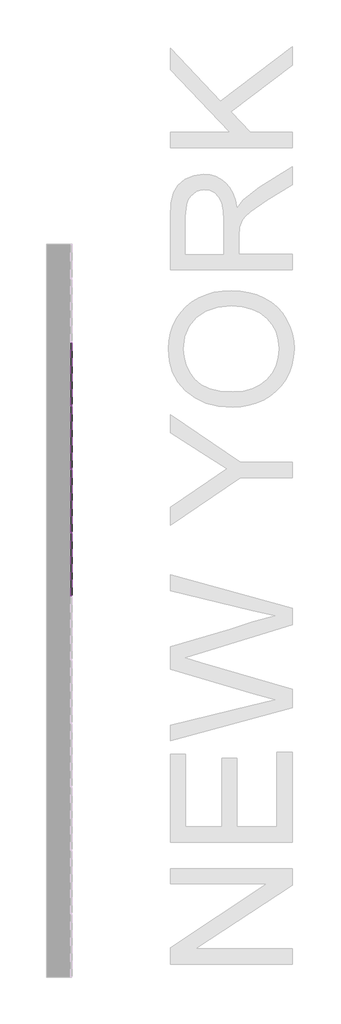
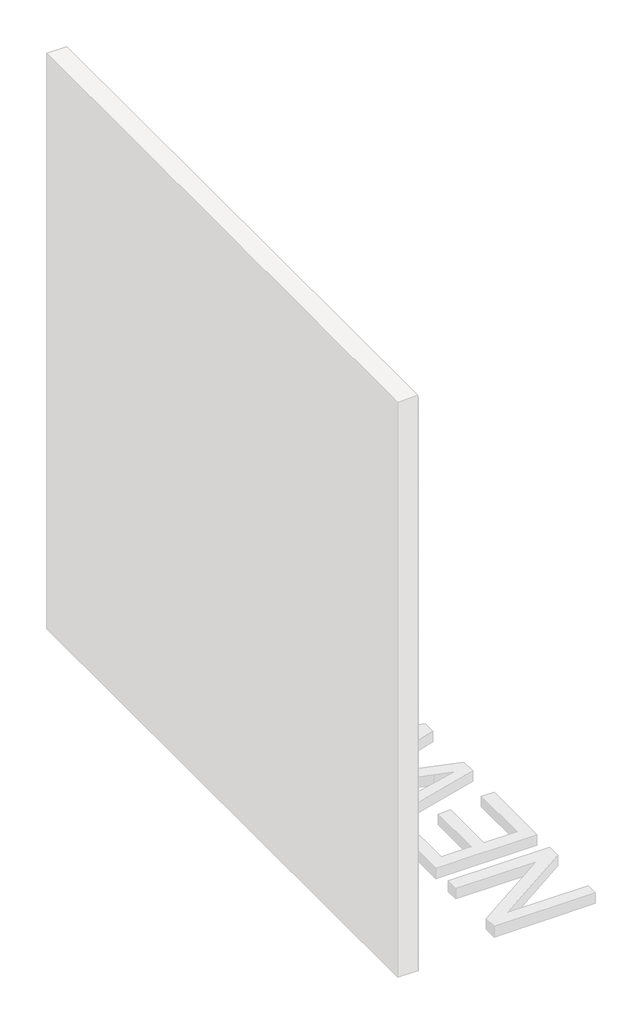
# One storey, part 23 of 45: 108 proxies.
"""IFC4 building model written with IfcOpenShell, lengths in millimetres."""

from ifc_helpers import new_model, si_unit, origin, place, context, project, spatial, transform, mapped, element, save
from components import generic_models_ab0f2c30

model = new_model("IFC4")

# Units and contexts
model_context = context("Model", 3, world=origin())
ifc_project = project(units=[si_unit("LENGTHUNIT", "METRE", prefix="MILLI")], contexts=[model_context])

# Site, building, storey
site = spatial("IfcSite", under=ifc_project)
building = spatial("IfcBuilding", under=site)
storey = spatial("IfcBuildingStorey", under=building, Name="PORTOBELLO - SHOWROOM", Elevation=0.0)

# Proxies
placement = place(None, origin())
generic_models_shape = generic_models_ab0f2c30(model_context)
element("IfcBuildingElementProxy", 1, Name="PBSHOP - HORIZONTES NEW YORK 6,5X23 : NEW YORK", ObjectType="PBSHOP - HORIZONTES NEW YORK 6,5X23 : NEW YORK", at=placement, inside=storey, context=model_context, shape_type="MappedRepresentation", body=[
    mapped(generic_models_shape, transform((69111.8826867, 7202.0036359, 862.5), x_axis=(0.0, 0.0, 1.0), y_axis=(0.0, -1.0, 0.0), z_axis=(1.0, 0.0, 0.0))),
])
element("IfcBuildingElementProxy", 2, Name="PBSHOP - HORIZONTES NEW YORK 6,5X23 : NEW YORK", ObjectType="PBSHOP - HORIZONTES NEW YORK 6,5X23 : NEW YORK", at=placement, inside=storey, context=model_context, shape_type="MappedRepresentation", body=[
    mapped(generic_models_shape, transform((69111.8826867, 7436.0036359, 862.5), x_axis=(0.0, 0.0, 1.0), y_axis=(0.0, -1.0, 0.0), z_axis=(1.0, 0.0, 0.0))),
])
element("IfcBuildingElementProxy", 3, Name="PBSHOP - HORIZONTES NEW YORK 6,5X23 : NEW YORK", ObjectType="PBSHOP - HORIZONTES NEW YORK 6,5X23 : NEW YORK", at=placement, inside=storey, context=model_context, shape_type="MappedRepresentation", body=[
    mapped(generic_models_shape, transform((69111.8826867, 7670.0036359, 862.5), x_axis=(0.0, 0.0, 1.0), y_axis=(0.0, -1.0, 0.0), z_axis=(1.0, 0.0, 0.0))),
])
element("IfcBuildingElementProxy", 4, Name="PBSHOP - HORIZONTES NEW YORK 6,5X23 : NEW YORK", ObjectType="PBSHOP - HORIZONTES NEW YORK 6,5X23 : NEW YORK", at=placement, inside=storey, context=model_context, shape_type="MappedRepresentation", body=[
    mapped(generic_models_shape, transform((69111.8826867, 7904.0036359, 862.5), x_axis=(0.0, 0.0, 1.0), y_axis=(0.0, -1.0, 0.0), z_axis=(1.0, 0.0, 0.0))),
])
element("IfcBuildingElementProxy", 5, Name="PBSHOP - HORIZONTES NEW YORK 6,5X23 : NEW YORK", ObjectType="PBSHOP - HORIZONTES NEW YORK 6,5X23 : NEW YORK", at=placement, inside=storey, context=model_context, shape_type="MappedRepresentation", body=[
    mapped(generic_models_shape, transform((69111.8826867, 7202.0036359, 931.5), x_axis=(0.0, 0.0, 1.0), y_axis=(0.0, -1.0, 0.0), z_axis=(1.0, 0.0, 0.0))),
])
element("IfcBuildingElementProxy", 6, Name="PBSHOP - HORIZONTES NEW YORK 6,5X23 : NEW YORK", ObjectType="PBSHOP - HORIZONTES NEW YORK 6,5X23 : NEW YORK", at=placement, inside=storey, context=model_context, shape_type="MappedRepresentation", body=[
    mapped(generic_models_shape, transform((69111.8826867, 7436.0036359, 931.5), x_axis=(0.0, 0.0, 1.0), y_axis=(0.0, -1.0, 0.0), z_axis=(1.0, 0.0, 0.0))),
])
element("IfcBuildingElementProxy", 7, Name="PBSHOP - HORIZONTES NEW YORK 6,5X23 : NEW YORK", ObjectType="PBSHOP - HORIZONTES NEW YORK 6,5X23 : NEW YORK", at=placement, inside=storey, context=model_context, shape_type="MappedRepresentation", body=[
    mapped(generic_models_shape, transform((69111.8826867, 7670.0036359, 931.5), x_axis=(0.0, 0.0, 1.0), y_axis=(0.0, -1.0, 0.0), z_axis=(1.0, 0.0, 0.0))),
])
element("IfcBuildingElementProxy", 8, Name="PBSHOP - HORIZONTES NEW YORK 6,5X23 : NEW YORK", ObjectType="PBSHOP - HORIZONTES NEW YORK 6,5X23 : NEW YORK", at=placement, inside=storey, context=model_context, shape_type="MappedRepresentation", body=[
    mapped(generic_models_shape, transform((69111.8826867, 7904.0036359, 931.5), x_axis=(0.0, 0.0, 1.0), y_axis=(0.0, -1.0, 0.0), z_axis=(1.0, 0.0, 0.0))),
])
element("IfcBuildingElementProxy", 9, Name="PBSHOP - HORIZONTES NEW YORK 6,5X23 : NEW YORK", ObjectType="PBSHOP - HORIZONTES NEW YORK 6,5X23 : NEW YORK", at=placement, inside=storey, context=model_context, shape_type="MappedRepresentation", body=[
    mapped(generic_models_shape, transform((69111.8826867, 7202.0036359, 1000.5), x_axis=(0.0, 0.0, 1.0), y_axis=(0.0, -1.0, 0.0), z_axis=(1.0, 0.0, 0.0))),
])
element("IfcBuildingElementProxy", 10, Name="PBSHOP - HORIZONTES NEW YORK 6,5X23 : NEW YORK", ObjectType="PBSHOP - HORIZONTES NEW YORK 6,5X23 : NEW YORK", at=placement, inside=storey, context=model_context, shape_type="MappedRepresentation", body=[
    mapped(generic_models_shape, transform((69111.8826867, 7436.0036359, 1000.5), x_axis=(0.0, 0.0, 1.0), y_axis=(0.0, -1.0, 0.0), z_axis=(1.0, 0.0, 0.0))),
])
element("IfcBuildingElementProxy", 11, Name="PBSHOP - HORIZONTES NEW YORK 6,5X23 : NEW YORK", ObjectType="PBSHOP - HORIZONTES NEW YORK 6,5X23 : NEW YORK", at=placement, inside=storey, context=model_context, shape_type="MappedRepresentation", body=[
    mapped(generic_models_shape, transform((69111.8826867, 7670.0036359, 1000.5), x_axis=(0.0, 0.0, 1.0), y_axis=(0.0, -1.0, 0.0), z_axis=(1.0, 0.0, 0.0))),
])
element("IfcBuildingElementProxy", 12, Name="PBSHOP - HORIZONTES NEW YORK 6,5X23 : NEW YORK", ObjectType="PBSHOP - HORIZONTES NEW YORK 6,5X23 : NEW YORK", at=placement, inside=storey, context=model_context, shape_type="MappedRepresentation", body=[
    mapped(generic_models_shape, transform((69111.8826867, 7904.0036359, 1000.5), x_axis=(0.0, 0.0, 1.0), y_axis=(0.0, -1.0, 0.0), z_axis=(1.0, 0.0, 0.0))),
])
element("IfcBuildingElementProxy", 13, Name="PBSHOP - HORIZONTES NEW YORK 6,5X23 : NEW YORK", ObjectType="PBSHOP - HORIZONTES NEW YORK 6,5X23 : NEW YORK", at=placement, inside=storey, context=model_context, shape_type="MappedRepresentation", body=[
    mapped(generic_models_shape, transform((69111.8826867, 7202.0036359, 1069.5), x_axis=(0.0, 0.0, 1.0), y_axis=(0.0, -1.0, 0.0), z_axis=(1.0, 0.0, 0.0))),
])
element("IfcBuildingElementProxy", 14, Name="PBSHOP - HORIZONTES NEW YORK 6,5X23 : NEW YORK", ObjectType="PBSHOP - HORIZONTES NEW YORK 6,5X23 : NEW YORK", at=placement, inside=storey, context=model_context, shape_type="MappedRepresentation", body=[
    mapped(generic_models_shape, transform((69111.8826867, 7436.0036359, 1069.5), x_axis=(0.0, 0.0, 1.0), y_axis=(0.0, -1.0, 0.0), z_axis=(1.0, 0.0, 0.0))),
])
element("IfcBuildingElementProxy", 15, Name="PBSHOP - HORIZONTES NEW YORK 6,5X23 : NEW YORK", ObjectType="PBSHOP - HORIZONTES NEW YORK 6,5X23 : NEW YORK", at=placement, inside=storey, context=model_context, shape_type="MappedRepresentation", body=[
    mapped(generic_models_shape, transform((69111.8826867, 7670.0036359, 1069.5), x_axis=(0.0, 0.0, 1.0), y_axis=(0.0, -1.0, 0.0), z_axis=(1.0, 0.0, 0.0))),
])
element("IfcBuildingElementProxy", 16, Name="PBSHOP - HORIZONTES NEW YORK 6,5X23 : NEW YORK", ObjectType="PBSHOP - HORIZONTES NEW YORK 6,5X23 : NEW YORK", at=placement, inside=storey, context=model_context, shape_type="MappedRepresentation", body=[
    mapped(generic_models_shape, transform((69111.8826867, 7904.0036359, 1069.5), x_axis=(0.0, 0.0, 1.0), y_axis=(0.0, -1.0, 0.0), z_axis=(1.0, 0.0, 0.0))),
])
element("IfcBuildingElementProxy", 17, Name="PBSHOP - HORIZONTES NEW YORK 6,5X23 : NEW YORK", ObjectType="PBSHOP - HORIZONTES NEW YORK 6,5X23 : NEW YORK", at=placement, inside=storey, context=model_context, shape_type="MappedRepresentation", body=[
    mapped(generic_models_shape, transform((69111.8826867, 7202.0036359, 1138.5), x_axis=(0.0, 0.0, 1.0), y_axis=(0.0, -1.0, 0.0), z_axis=(1.0, 0.0, 0.0))),
])
element("IfcBuildingElementProxy", 18, Name="PBSHOP - HORIZONTES NEW YORK 6,5X23 : NEW YORK", ObjectType="PBSHOP - HORIZONTES NEW YORK 6,5X23 : NEW YORK", at=placement, inside=storey, context=model_context, shape_type="MappedRepresentation", body=[
    mapped(generic_models_shape, transform((69111.8826867, 7436.0036359, 1138.5), x_axis=(0.0, 0.0, 1.0), y_axis=(0.0, -1.0, 0.0), z_axis=(1.0, 0.0, 0.0))),
])
element("IfcBuildingElementProxy", 19, Name="PBSHOP - HORIZONTES NEW YORK 6,5X23 : NEW YORK", ObjectType="PBSHOP - HORIZONTES NEW YORK 6,5X23 : NEW YORK", at=placement, inside=storey, context=model_context, shape_type="MappedRepresentation", body=[
    mapped(generic_models_shape, transform((69111.8826867, 7670.0036359, 1138.5), x_axis=(0.0, 0.0, 1.0), y_axis=(0.0, -1.0, 0.0), z_axis=(1.0, 0.0, 0.0))),
])
element("IfcBuildingElementProxy", 20, Name="PBSHOP - HORIZONTES NEW YORK 6,5X23 : NEW YORK", ObjectType="PBSHOP - HORIZONTES NEW YORK 6,5X23 : NEW YORK", at=placement, inside=storey, context=model_context, shape_type="MappedRepresentation", body=[
    mapped(generic_models_shape, transform((69111.8826867, 7904.0036359, 1138.5), x_axis=(0.0, 0.0, 1.0), y_axis=(0.0, -1.0, 0.0), z_axis=(1.0, 0.0, 0.0))),
])
element("IfcBuildingElementProxy", 21, Name="PBSHOP - HORIZONTES NEW YORK 6,5X23 : NEW YORK", ObjectType="PBSHOP - HORIZONTES NEW YORK 6,5X23 : NEW YORK", at=placement, inside=storey, context=model_context, shape_type="MappedRepresentation", body=[
    mapped(generic_models_shape, transform((69111.8826867, 7202.0036359, 1207.5), x_axis=(0.0, 0.0, 1.0), y_axis=(0.0, -1.0, 0.0), z_axis=(1.0, 0.0, 0.0))),
])
element("IfcBuildingElementProxy", 22, Name="PBSHOP - HORIZONTES NEW YORK 6,5X23 : NEW YORK", ObjectType="PBSHOP - HORIZONTES NEW YORK 6,5X23 : NEW YORK", at=placement, inside=storey, context=model_context, shape_type="MappedRepresentation", body=[
    mapped(generic_models_shape, transform((69111.8826867, 7436.0036359, 1207.5), x_axis=(0.0, 0.0, 1.0), y_axis=(0.0, -1.0, 0.0), z_axis=(1.0, 0.0, 0.0))),
])
element("IfcBuildingElementProxy", 23, Name="PBSHOP - HORIZONTES NEW YORK 6,5X23 : NEW YORK", ObjectType="PBSHOP - HORIZONTES NEW YORK 6,5X23 : NEW YORK", at=placement, inside=storey, context=model_context, shape_type="MappedRepresentation", body=[
    mapped(generic_models_shape, transform((69111.8826867, 7670.0036359, 1207.5), x_axis=(0.0, 0.0, 1.0), y_axis=(0.0, -1.0, 0.0), z_axis=(1.0, 0.0, 0.0))),
])
element("IfcBuildingElementProxy", 24, Name="PBSHOP - HORIZONTES NEW YORK 6,5X23 : NEW YORK", ObjectType="PBSHOP - HORIZONTES NEW YORK 6,5X23 : NEW YORK", at=placement, inside=storey, context=model_context, shape_type="MappedRepresentation", body=[
    mapped(generic_models_shape, transform((69111.8826867, 7904.0036359, 1207.5), x_axis=(0.0, 0.0, 1.0), y_axis=(0.0, -1.0, 0.0), z_axis=(1.0, 0.0, 0.0))),
])
element("IfcBuildingElementProxy", 25, Name="PBSHOP - HORIZONTES NEW YORK 6,5X23 : NEW YORK", ObjectType="PBSHOP - HORIZONTES NEW YORK 6,5X23 : NEW YORK", at=placement, inside=storey, context=model_context, shape_type="MappedRepresentation", body=[
    mapped(generic_models_shape, transform((69111.8826867, 7202.0036359, 1276.5), x_axis=(0.0, 0.0, 1.0), y_axis=(0.0, -1.0, 0.0), z_axis=(1.0, 0.0, 0.0))),
])
element("IfcBuildingElementProxy", 26, Name="PBSHOP - HORIZONTES NEW YORK 6,5X23 : NEW YORK", ObjectType="PBSHOP - HORIZONTES NEW YORK 6,5X23 : NEW YORK", at=placement, inside=storey, context=model_context, shape_type="MappedRepresentation", body=[
    mapped(generic_models_shape, transform((69111.8826867, 7436.0036359, 1276.5), x_axis=(0.0, 0.0, 1.0), y_axis=(0.0, -1.0, 0.0), z_axis=(1.0, 0.0, 0.0))),
])
element("IfcBuildingElementProxy", 27, Name="PBSHOP - HORIZONTES NEW YORK 6,5X23 : NEW YORK", ObjectType="PBSHOP - HORIZONTES NEW YORK 6,5X23 : NEW YORK", at=placement, inside=storey, context=model_context, shape_type="MappedRepresentation", body=[
    mapped(generic_models_shape, transform((69111.8826867, 7670.0036359, 1276.5), x_axis=(0.0, 0.0, 1.0), y_axis=(0.0, -1.0, 0.0), z_axis=(1.0, 0.0, 0.0))),
])
element("IfcBuildingElementProxy", 28, Name="PBSHOP - HORIZONTES NEW YORK 6,5X23 : NEW YORK", ObjectType="PBSHOP - HORIZONTES NEW YORK 6,5X23 : NEW YORK", at=placement, inside=storey, context=model_context, shape_type="MappedRepresentation", body=[
    mapped(generic_models_shape, transform((69111.8826867, 7904.0036359, 1276.5), x_axis=(0.0, 0.0, 1.0), y_axis=(0.0, -1.0, 0.0), z_axis=(1.0, 0.0, 0.0))),
])
element("IfcBuildingElementProxy", 29, Name="PBSHOP - HORIZONTES NEW YORK 6,5X23 : NEW YORK", ObjectType="PBSHOP - HORIZONTES NEW YORK 6,5X23 : NEW YORK", at=placement, inside=storey, context=model_context, shape_type="MappedRepresentation", body=[
    mapped(generic_models_shape, transform((69111.8826867, 7202.0036359, 1345.5), x_axis=(0.0, 0.0, 1.0), y_axis=(0.0, -1.0, 0.0), z_axis=(1.0, 0.0, 0.0))),
])
element("IfcBuildingElementProxy", 30, Name="PBSHOP - HORIZONTES NEW YORK 6,5X23 : NEW YORK", ObjectType="PBSHOP - HORIZONTES NEW YORK 6,5X23 : NEW YORK", at=placement, inside=storey, context=model_context, shape_type="MappedRepresentation", body=[
    mapped(generic_models_shape, transform((69111.8826867, 7436.0036359, 1345.5), x_axis=(0.0, 0.0, 1.0), y_axis=(0.0, -1.0, 0.0), z_axis=(1.0, 0.0, 0.0))),
])
element("IfcBuildingElementProxy", 31, Name="PBSHOP - HORIZONTES NEW YORK 6,5X23 : NEW YORK", ObjectType="PBSHOP - HORIZONTES NEW YORK 6,5X23 : NEW YORK", at=placement, inside=storey, context=model_context, shape_type="MappedRepresentation", body=[
    mapped(generic_models_shape, transform((69111.8826867, 7670.0036359, 1345.5), x_axis=(0.0, 0.0, 1.0), y_axis=(0.0, -1.0, 0.0), z_axis=(1.0, 0.0, 0.0))),
])
element("IfcBuildingElementProxy", 32, Name="PBSHOP - HORIZONTES NEW YORK 6,5X23 : NEW YORK", ObjectType="PBSHOP - HORIZONTES NEW YORK 6,5X23 : NEW YORK", at=placement, inside=storey, context=model_context, shape_type="MappedRepresentation", body=[
    mapped(generic_models_shape, transform((69111.8826867, 7904.0036359, 1345.5), x_axis=(0.0, 0.0, 1.0), y_axis=(0.0, -1.0, 0.0), z_axis=(1.0, 0.0, 0.0))),
])
element("IfcBuildingElementProxy", 33, Name="PBSHOP - HORIZONTES NEW YORK 6,5X23 : NEW YORK", ObjectType="PBSHOP - HORIZONTES NEW YORK 6,5X23 : NEW YORK", at=placement, inside=storey, context=model_context, shape_type="MappedRepresentation", body=[
    mapped(generic_models_shape, transform((69111.8826867, 7202.0036359, 1414.5), x_axis=(0.0, 0.0, 1.0), y_axis=(0.0, -1.0, 0.0), z_axis=(1.0, 0.0, 0.0))),
])
element("IfcBuildingElementProxy", 34, Name="PBSHOP - HORIZONTES NEW YORK 6,5X23 : NEW YORK", ObjectType="PBSHOP - HORIZONTES NEW YORK 6,5X23 : NEW YORK", at=placement, inside=storey, context=model_context, shape_type="MappedRepresentation", body=[
    mapped(generic_models_shape, transform((69111.8826867, 7436.0036359, 1414.5), x_axis=(0.0, 0.0, 1.0), y_axis=(0.0, -1.0, 0.0), z_axis=(1.0, 0.0, 0.0))),
])
element("IfcBuildingElementProxy", 35, Name="PBSHOP - HORIZONTES NEW YORK 6,5X23 : NEW YORK", ObjectType="PBSHOP - HORIZONTES NEW YORK 6,5X23 : NEW YORK", at=placement, inside=storey, context=model_context, shape_type="MappedRepresentation", body=[
    mapped(generic_models_shape, transform((69111.8826867, 7670.0036359, 1414.5), x_axis=(0.0, 0.0, 1.0), y_axis=(0.0, -1.0, 0.0), z_axis=(1.0, 0.0, 0.0))),
])
element("IfcBuildingElementProxy", 36, Name="PBSHOP - HORIZONTES NEW YORK 6,5X23 : NEW YORK", ObjectType="PBSHOP - HORIZONTES NEW YORK 6,5X23 : NEW YORK", at=placement, inside=storey, context=model_context, shape_type="MappedRepresentation", body=[
    mapped(generic_models_shape, transform((69111.8826867, 7904.0036359, 1414.5), x_axis=(0.0, 0.0, 1.0), y_axis=(0.0, -1.0, 0.0), z_axis=(1.0, 0.0, 0.0))),
])
element("IfcBuildingElementProxy", 37, Name="PBSHOP - HORIZONTES NEW YORK 6,5X23 : NEW YORK", ObjectType="PBSHOP - HORIZONTES NEW YORK 6,5X23 : NEW YORK", at=placement, inside=storey, context=model_context, shape_type="MappedRepresentation", body=[
    mapped(generic_models_shape, transform((69111.8826867, 7202.0036359, 1483.5), x_axis=(0.0, 0.0, 1.0), y_axis=(0.0, -1.0, 0.0), z_axis=(1.0, 0.0, 0.0))),
])
element("IfcBuildingElementProxy", 38, Name="PBSHOP - HORIZONTES NEW YORK 6,5X23 : NEW YORK", ObjectType="PBSHOP - HORIZONTES NEW YORK 6,5X23 : NEW YORK", at=placement, inside=storey, context=model_context, shape_type="MappedRepresentation", body=[
    mapped(generic_models_shape, transform((69111.8826867, 7436.0036359, 1483.5), x_axis=(0.0, 0.0, 1.0), y_axis=(0.0, -1.0, 0.0), z_axis=(1.0, 0.0, 0.0))),
])
element("IfcBuildingElementProxy", 39, Name="PBSHOP - HORIZONTES NEW YORK 6,5X23 : NEW YORK", ObjectType="PBSHOP - HORIZONTES NEW YORK 6,5X23 : NEW YORK", at=placement, inside=storey, context=model_context, shape_type="MappedRepresentation", body=[
    mapped(generic_models_shape, transform((69111.8826867, 7670.0036359, 1483.5), x_axis=(0.0, 0.0, 1.0), y_axis=(0.0, -1.0, 0.0), z_axis=(1.0, 0.0, 0.0))),
])
element("IfcBuildingElementProxy", 40, Name="PBSHOP - HORIZONTES NEW YORK 6,5X23 : NEW YORK", ObjectType="PBSHOP - HORIZONTES NEW YORK 6,5X23 : NEW YORK", at=placement, inside=storey, context=model_context, shape_type="MappedRepresentation", body=[
    mapped(generic_models_shape, transform((69111.8826867, 7904.0036359, 1483.5), x_axis=(0.0, 0.0, 1.0), y_axis=(0.0, -1.0, 0.0), z_axis=(1.0, 0.0, 0.0))),
])
element("IfcBuildingElementProxy", 41, Name="PBSHOP - HORIZONTES NEW YORK 6,5X23 : NEW YORK", ObjectType="PBSHOP - HORIZONTES NEW YORK 6,5X23 : NEW YORK", at=placement, inside=storey, context=model_context, shape_type="MappedRepresentation", body=[
    mapped(generic_models_shape, transform((69111.8826867, 7202.0036359, 1552.5), x_axis=(0.0, 0.0, 1.0), y_axis=(0.0, -1.0, 0.0), z_axis=(1.0, 0.0, 0.0))),
])
element("IfcBuildingElementProxy", 42, Name="PBSHOP - HORIZONTES NEW YORK 6,5X23 : NEW YORK", ObjectType="PBSHOP - HORIZONTES NEW YORK 6,5X23 : NEW YORK", at=placement, inside=storey, context=model_context, shape_type="MappedRepresentation", body=[
    mapped(generic_models_shape, transform((69111.8826867, 7436.0036359, 1552.5), x_axis=(0.0, 0.0, 1.0), y_axis=(0.0, -1.0, 0.0), z_axis=(1.0, 0.0, 0.0))),
])
element("IfcBuildingElementProxy", 43, Name="PBSHOP - HORIZONTES NEW YORK 6,5X23 : NEW YORK", ObjectType="PBSHOP - HORIZONTES NEW YORK 6,5X23 : NEW YORK", at=placement, inside=storey, context=model_context, shape_type="MappedRepresentation", body=[
    mapped(generic_models_shape, transform((69111.8826867, 7670.0036359, 1552.5), x_axis=(0.0, 0.0, 1.0), y_axis=(0.0, -1.0, 0.0), z_axis=(1.0, 0.0, 0.0))),
])
element("IfcBuildingElementProxy", 44, Name="PBSHOP - HORIZONTES NEW YORK 6,5X23 : NEW YORK", ObjectType="PBSHOP - HORIZONTES NEW YORK 6,5X23 : NEW YORK", at=placement, inside=storey, context=model_context, shape_type="MappedRepresentation", body=[
    mapped(generic_models_shape, transform((69111.8826867, 7904.0036359, 1552.5), x_axis=(0.0, 0.0, 1.0), y_axis=(0.0, -1.0, 0.0), z_axis=(1.0, 0.0, 0.0))),
])
element("IfcBuildingElementProxy", 45, Name="PBSHOP - HORIZONTES NEW YORK 6,5X23 : NEW YORK", ObjectType="PBSHOP - HORIZONTES NEW YORK 6,5X23 : NEW YORK", at=placement, inside=storey, context=model_context, shape_type="MappedRepresentation", body=[
    mapped(generic_models_shape, transform((69111.8826867, 7202.0036359, 1621.5), x_axis=(0.0, 0.0, 1.0), y_axis=(0.0, -1.0, 0.0), z_axis=(1.0, 0.0, 0.0))),
])
element("IfcBuildingElementProxy", 46, Name="PBSHOP - HORIZONTES NEW YORK 6,5X23 : NEW YORK", ObjectType="PBSHOP - HORIZONTES NEW YORK 6,5X23 : NEW YORK", at=placement, inside=storey, context=model_context, shape_type="MappedRepresentation", body=[
    mapped(generic_models_shape, transform((69111.8826867, 7436.0036359, 1621.5), x_axis=(0.0, 0.0, 1.0), y_axis=(0.0, -1.0, 0.0), z_axis=(1.0, 0.0, 0.0))),
])
element("IfcBuildingElementProxy", 47, Name="PBSHOP - HORIZONTES NEW YORK 6,5X23 : NEW YORK", ObjectType="PBSHOP - HORIZONTES NEW YORK 6,5X23 : NEW YORK", at=placement, inside=storey, context=model_context, shape_type="MappedRepresentation", body=[
    mapped(generic_models_shape, transform((69111.8826867, 7670.0036359, 1621.5), x_axis=(0.0, 0.0, 1.0), y_axis=(0.0, -1.0, 0.0), z_axis=(1.0, 0.0, 0.0))),
])
element("IfcBuildingElementProxy", 48, Name="PBSHOP - HORIZONTES NEW YORK 6,5X23 : NEW YORK", ObjectType="PBSHOP - HORIZONTES NEW YORK 6,5X23 : NEW YORK", at=placement, inside=storey, context=model_context, shape_type="MappedRepresentation", body=[
    mapped(generic_models_shape, transform((69111.8826867, 7904.0036359, 1621.5), x_axis=(0.0, 0.0, 1.0), y_axis=(0.0, -1.0, 0.0), z_axis=(1.0, 0.0, 0.0))),
])
element("IfcBuildingElementProxy", 49, Name="PBSHOP - HORIZONTES NEW YORK 6,5X23 : NEW YORK", ObjectType="PBSHOP - HORIZONTES NEW YORK 6,5X23 : NEW YORK", at=placement, inside=storey, context=model_context, shape_type="MappedRepresentation", body=[
    mapped(generic_models_shape, transform((69111.8826867, 7202.0036359, 1690.5), x_axis=(0.0, 0.0, 1.0), y_axis=(0.0, -1.0, 0.0), z_axis=(1.0, 0.0, 0.0))),
])
element("IfcBuildingElementProxy", 50, Name="PBSHOP - HORIZONTES NEW YORK 6,5X23 : NEW YORK", ObjectType="PBSHOP - HORIZONTES NEW YORK 6,5X23 : NEW YORK", at=placement, inside=storey, context=model_context, shape_type="MappedRepresentation", body=[
    mapped(generic_models_shape, transform((69111.8826867, 7436.0036359, 1690.5), x_axis=(0.0, 0.0, 1.0), y_axis=(0.0, -1.0, 0.0), z_axis=(1.0, 0.0, 0.0))),
])
element("IfcBuildingElementProxy", 51, Name="PBSHOP - HORIZONTES NEW YORK 6,5X23 : NEW YORK", ObjectType="PBSHOP - HORIZONTES NEW YORK 6,5X23 : NEW YORK", at=placement, inside=storey, context=model_context, shape_type="MappedRepresentation", body=[
    mapped(generic_models_shape, transform((69111.8826867, 7670.0036359, 1690.5), x_axis=(0.0, 0.0, 1.0), y_axis=(0.0, -1.0, 0.0), z_axis=(1.0, 0.0, 0.0))),
])
element("IfcBuildingElementProxy", 52, Name="PBSHOP - HORIZONTES NEW YORK 6,5X23 : NEW YORK", ObjectType="PBSHOP - HORIZONTES NEW YORK 6,5X23 : NEW YORK", at=placement, inside=storey, context=model_context, shape_type="MappedRepresentation", body=[
    mapped(generic_models_shape, transform((69111.8826867, 7904.0036359, 1690.5), x_axis=(0.0, 0.0, 1.0), y_axis=(0.0, -1.0, 0.0), z_axis=(1.0, 0.0, 0.0))),
])
element("IfcBuildingElementProxy", 53, Name="PBSHOP - HORIZONTES NEW YORK 6,5X23 : NEW YORK", ObjectType="PBSHOP - HORIZONTES NEW YORK 6,5X23 : NEW YORK", at=placement, inside=storey, context=model_context, shape_type="MappedRepresentation", body=[
    mapped(generic_models_shape, transform((69111.8826867, 7202.0036359, 1759.5), x_axis=(0.0, 0.0, 1.0), y_axis=(0.0, -1.0, 0.0), z_axis=(1.0, 0.0, 0.0))),
])
element("IfcBuildingElementProxy", 54, Name="PBSHOP - HORIZONTES NEW YORK 6,5X23 : NEW YORK", ObjectType="PBSHOP - HORIZONTES NEW YORK 6,5X23 : NEW YORK", at=placement, inside=storey, context=model_context, shape_type="MappedRepresentation", body=[
    mapped(generic_models_shape, transform((69111.8826867, 7436.0036359, 1759.5), x_axis=(0.0, 0.0, 1.0), y_axis=(0.0, -1.0, 0.0), z_axis=(1.0, 0.0, 0.0))),
])
element("IfcBuildingElementProxy", 55, Name="PBSHOP - HORIZONTES NEW YORK 6,5X23 : NEW YORK", ObjectType="PBSHOP - HORIZONTES NEW YORK 6,5X23 : NEW YORK", at=placement, inside=storey, context=model_context, shape_type="MappedRepresentation", body=[
    mapped(generic_models_shape, transform((69111.8826867, 7670.0036359, 1759.5), x_axis=(0.0, 0.0, 1.0), y_axis=(0.0, -1.0, 0.0), z_axis=(1.0, 0.0, 0.0))),
])
element("IfcBuildingElementProxy", 56, Name="PBSHOP - HORIZONTES NEW YORK 6,5X23 : NEW YORK", ObjectType="PBSHOP - HORIZONTES NEW YORK 6,5X23 : NEW YORK", at=placement, inside=storey, context=model_context, shape_type="MappedRepresentation", body=[
    mapped(generic_models_shape, transform((69111.8826867, 7904.0036359, 1759.5), x_axis=(0.0, 0.0, 1.0), y_axis=(0.0, -1.0, 0.0), z_axis=(1.0, 0.0, 0.0))),
])
element("IfcBuildingElementProxy", 57, Name="PBSHOP - HORIZONTES NEW YORK 6,5X23 : NEW YORK", ObjectType="PBSHOP - HORIZONTES NEW YORK 6,5X23 : NEW YORK", at=placement, inside=storey, context=model_context, shape_type="MappedRepresentation", body=[
    mapped(generic_models_shape, transform((69111.8826867, 7202.0036359, 1828.5), x_axis=(0.0, 0.0, 1.0), y_axis=(0.0, -1.0, 0.0), z_axis=(1.0, 0.0, 0.0))),
])
element("IfcBuildingElementProxy", 58, Name="PBSHOP - HORIZONTES NEW YORK 6,5X23 : NEW YORK", ObjectType="PBSHOP - HORIZONTES NEW YORK 6,5X23 : NEW YORK", at=placement, inside=storey, context=model_context, shape_type="MappedRepresentation", body=[
    mapped(generic_models_shape, transform((69111.8826867, 7436.0036359, 1828.5), x_axis=(0.0, 0.0, 1.0), y_axis=(0.0, -1.0, 0.0), z_axis=(1.0, 0.0, 0.0))),
])
element("IfcBuildingElementProxy", 59, Name="PBSHOP - HORIZONTES NEW YORK 6,5X23 : NEW YORK", ObjectType="PBSHOP - HORIZONTES NEW YORK 6,5X23 : NEW YORK", at=placement, inside=storey, context=model_context, shape_type="MappedRepresentation", body=[
    mapped(generic_models_shape, transform((69111.8826867, 7670.0036359, 1828.5), x_axis=(0.0, 0.0, 1.0), y_axis=(0.0, -1.0, 0.0), z_axis=(1.0, 0.0, 0.0))),
])
element("IfcBuildingElementProxy", 60, Name="PBSHOP - HORIZONTES NEW YORK 6,5X23 : NEW YORK", ObjectType="PBSHOP - HORIZONTES NEW YORK 6,5X23 : NEW YORK", at=placement, inside=storey, context=model_context, shape_type="MappedRepresentation", body=[
    mapped(generic_models_shape, transform((69111.8826867, 7904.0036359, 1828.5), x_axis=(0.0, 0.0, 1.0), y_axis=(0.0, -1.0, 0.0), z_axis=(1.0, 0.0, 0.0))),
])
element("IfcBuildingElementProxy", 61, Name="PBSHOP - HORIZONTES NEW YORK 6,5X23 : NEW YORK", ObjectType="PBSHOP - HORIZONTES NEW YORK 6,5X23 : NEW YORK", at=placement, inside=storey, context=model_context, shape_type="MappedRepresentation", body=[
    mapped(generic_models_shape, transform((69111.8826867, 7202.0036359, 1897.5), x_axis=(0.0, 0.0, 1.0), y_axis=(0.0, -1.0, 0.0), z_axis=(1.0, 0.0, 0.0))),
])
element("IfcBuildingElementProxy", 62, Name="PBSHOP - HORIZONTES NEW YORK 6,5X23 : NEW YORK", ObjectType="PBSHOP - HORIZONTES NEW YORK 6,5X23 : NEW YORK", at=placement, inside=storey, context=model_context, shape_type="MappedRepresentation", body=[
    mapped(generic_models_shape, transform((69111.8826867, 7436.0036359, 1897.5), x_axis=(0.0, 0.0, 1.0), y_axis=(0.0, -1.0, 0.0), z_axis=(1.0, 0.0, 0.0))),
])
element("IfcBuildingElementProxy", 63, Name="PBSHOP - HORIZONTES NEW YORK 6,5X23 : NEW YORK", ObjectType="PBSHOP - HORIZONTES NEW YORK 6,5X23 : NEW YORK", at=placement, inside=storey, context=model_context, shape_type="MappedRepresentation", body=[
    mapped(generic_models_shape, transform((69111.8826867, 7670.0036359, 1897.5), x_axis=(0.0, 0.0, 1.0), y_axis=(0.0, -1.0, 0.0), z_axis=(1.0, 0.0, 0.0))),
])
element("IfcBuildingElementProxy", 64, Name="PBSHOP - HORIZONTES NEW YORK 6,5X23 : NEW YORK", ObjectType="PBSHOP - HORIZONTES NEW YORK 6,5X23 : NEW YORK", at=placement, inside=storey, context=model_context, shape_type="MappedRepresentation", body=[
    mapped(generic_models_shape, transform((69111.8826867, 7904.0036359, 1897.5), x_axis=(0.0, 0.0, 1.0), y_axis=(0.0, -1.0, 0.0), z_axis=(1.0, 0.0, 0.0))),
])
element("IfcBuildingElementProxy", 65, Name="PBSHOP - HORIZONTES NEW YORK 6,5X23 : NEW YORK", ObjectType="PBSHOP - HORIZONTES NEW YORK 6,5X23 : NEW YORK", at=placement, inside=storey, context=model_context, shape_type="MappedRepresentation", body=[
    mapped(generic_models_shape, transform((69111.8826867, 7202.0036359, 1966.5), x_axis=(0.0, 0.0, 1.0), y_axis=(0.0, -1.0, 0.0), z_axis=(1.0, 0.0, 0.0))),
])
element("IfcBuildingElementProxy", 66, Name="PBSHOP - HORIZONTES NEW YORK 6,5X23 : NEW YORK", ObjectType="PBSHOP - HORIZONTES NEW YORK 6,5X23 : NEW YORK", at=placement, inside=storey, context=model_context, shape_type="MappedRepresentation", body=[
    mapped(generic_models_shape, transform((69111.8826867, 7436.0036359, 1966.5), x_axis=(0.0, 0.0, 1.0), y_axis=(0.0, -1.0, 0.0), z_axis=(1.0, 0.0, 0.0))),
])
element("IfcBuildingElementProxy", 67, Name="PBSHOP - HORIZONTES NEW YORK 6,5X23 : NEW YORK", ObjectType="PBSHOP - HORIZONTES NEW YORK 6,5X23 : NEW YORK", at=placement, inside=storey, context=model_context, shape_type="MappedRepresentation", body=[
    mapped(generic_models_shape, transform((69111.8826867, 7670.0036359, 1966.5), x_axis=(0.0, 0.0, 1.0), y_axis=(0.0, -1.0, 0.0), z_axis=(1.0, 0.0, 0.0))),
])
element("IfcBuildingElementProxy", 68, Name="PBSHOP - HORIZONTES NEW YORK 6,5X23 : NEW YORK", ObjectType="PBSHOP - HORIZONTES NEW YORK 6,5X23 : NEW YORK", at=placement, inside=storey, context=model_context, shape_type="MappedRepresentation", body=[
    mapped(generic_models_shape, transform((69111.8826867, 7904.0036359, 1966.5), x_axis=(0.0, 0.0, 1.0), y_axis=(0.0, -1.0, 0.0), z_axis=(1.0, 0.0, 0.0))),
])
element("IfcBuildingElementProxy", 69, Name="PBSHOP - HORIZONTES NEW YORK 6,5X23 : NEW YORK", ObjectType="PBSHOP - HORIZONTES NEW YORK 6,5X23 : NEW YORK", at=placement, inside=storey, context=model_context, shape_type="MappedRepresentation", body=[
    mapped(generic_models_shape, transform((69111.8826867, 7202.0036359, 2035.5), x_axis=(0.0, 0.0, 1.0), y_axis=(0.0, -1.0, 0.0), z_axis=(1.0, 0.0, 0.0))),
])
element("IfcBuildingElementProxy", 70, Name="PBSHOP - HORIZONTES NEW YORK 6,5X23 : NEW YORK", ObjectType="PBSHOP - HORIZONTES NEW YORK 6,5X23 : NEW YORK", at=placement, inside=storey, context=model_context, shape_type="MappedRepresentation", body=[
    mapped(generic_models_shape, transform((69111.8826867, 7436.0036359, 2035.5), x_axis=(0.0, 0.0, 1.0), y_axis=(0.0, -1.0, 0.0), z_axis=(1.0, 0.0, 0.0))),
])
element("IfcBuildingElementProxy", 71, Name="PBSHOP - HORIZONTES NEW YORK 6,5X23 : NEW YORK", ObjectType="PBSHOP - HORIZONTES NEW YORK 6,5X23 : NEW YORK", at=placement, inside=storey, context=model_context, shape_type="MappedRepresentation", body=[
    mapped(generic_models_shape, transform((69111.8826867, 7670.0036359, 2035.5), x_axis=(0.0, 0.0, 1.0), y_axis=(0.0, -1.0, 0.0), z_axis=(1.0, 0.0, 0.0))),
])
element("IfcBuildingElementProxy", 72, Name="PBSHOP - HORIZONTES NEW YORK 6,5X23 : NEW YORK", ObjectType="PBSHOP - HORIZONTES NEW YORK 6,5X23 : NEW YORK", at=placement, inside=storey, context=model_context, shape_type="MappedRepresentation", body=[
    mapped(generic_models_shape, transform((69111.8826867, 7904.0036359, 2035.5), x_axis=(0.0, 0.0, 1.0), y_axis=(0.0, -1.0, 0.0), z_axis=(1.0, 0.0, 0.0))),
])
element("IfcBuildingElementProxy", 73, Name="PBSHOP - HORIZONTES NEW YORK 6,5X23 : NEW YORK", ObjectType="PBSHOP - HORIZONTES NEW YORK 6,5X23 : NEW YORK", at=placement, inside=storey, context=model_context, shape_type="MappedRepresentation", body=[
    mapped(generic_models_shape, transform((69111.8826867, 7202.0036359, 2104.5), x_axis=(0.0, 0.0, 1.0), y_axis=(0.0, -1.0, 0.0), z_axis=(1.0, 0.0, 0.0))),
])
element("IfcBuildingElementProxy", 74, Name="PBSHOP - HORIZONTES NEW YORK 6,5X23 : NEW YORK", ObjectType="PBSHOP - HORIZONTES NEW YORK 6,5X23 : NEW YORK", at=placement, inside=storey, context=model_context, shape_type="MappedRepresentation", body=[
    mapped(generic_models_shape, transform((69111.8826867, 7436.0036359, 2104.5), x_axis=(0.0, 0.0, 1.0), y_axis=(0.0, -1.0, 0.0), z_axis=(1.0, 0.0, 0.0))),
])
element("IfcBuildingElementProxy", 75, Name="PBSHOP - HORIZONTES NEW YORK 6,5X23 : NEW YORK", ObjectType="PBSHOP - HORIZONTES NEW YORK 6,5X23 : NEW YORK", at=placement, inside=storey, context=model_context, shape_type="MappedRepresentation", body=[
    mapped(generic_models_shape, transform((69111.8826867, 7670.0036359, 2104.5), x_axis=(0.0, 0.0, 1.0), y_axis=(0.0, -1.0, 0.0), z_axis=(1.0, 0.0, 0.0))),
])
element("IfcBuildingElementProxy", 76, Name="PBSHOP - HORIZONTES NEW YORK 6,5X23 : NEW YORK", ObjectType="PBSHOP - HORIZONTES NEW YORK 6,5X23 : NEW YORK", at=placement, inside=storey, context=model_context, shape_type="MappedRepresentation", body=[
    mapped(generic_models_shape, transform((69111.8826867, 7904.0036359, 2104.5), x_axis=(0.0, 0.0, 1.0), y_axis=(0.0, -1.0, 0.0), z_axis=(1.0, 0.0, 0.0))),
])
element("IfcBuildingElementProxy", 77, Name="PBSHOP - HORIZONTES NEW YORK 6,5X23 : NEW YORK", ObjectType="PBSHOP - HORIZONTES NEW YORK 6,5X23 : NEW YORK", at=placement, inside=storey, context=model_context, shape_type="MappedRepresentation", body=[
    mapped(generic_models_shape, transform((69111.8826867, 7202.0036359, 2173.5), x_axis=(0.0, 0.0, 1.0), y_axis=(0.0, -1.0, 0.0), z_axis=(1.0, 0.0, 0.0))),
])
element("IfcBuildingElementProxy", 78, Name="PBSHOP - HORIZONTES NEW YORK 6,5X23 : NEW YORK", ObjectType="PBSHOP - HORIZONTES NEW YORK 6,5X23 : NEW YORK", at=placement, inside=storey, context=model_context, shape_type="MappedRepresentation", body=[
    mapped(generic_models_shape, transform((69111.8826867, 7436.0036359, 2173.5), x_axis=(0.0, 0.0, 1.0), y_axis=(0.0, -1.0, 0.0), z_axis=(1.0, 0.0, 0.0))),
])
element("IfcBuildingElementProxy", 79, Name="PBSHOP - HORIZONTES NEW YORK 6,5X23 : NEW YORK", ObjectType="PBSHOP - HORIZONTES NEW YORK 6,5X23 : NEW YORK", at=placement, inside=storey, context=model_context, shape_type="MappedRepresentation", body=[
    mapped(generic_models_shape, transform((69111.8826867, 7670.0036359, 2173.5), x_axis=(0.0, 0.0, 1.0), y_axis=(0.0, -1.0, 0.0), z_axis=(1.0, 0.0, 0.0))),
])
element("IfcBuildingElementProxy", 80, Name="PBSHOP - HORIZONTES NEW YORK 6,5X23 : NEW YORK", ObjectType="PBSHOP - HORIZONTES NEW YORK 6,5X23 : NEW YORK", at=placement, inside=storey, context=model_context, shape_type="MappedRepresentation", body=[
    mapped(generic_models_shape, transform((69111.8826867, 7904.0036359, 2173.5), x_axis=(0.0, 0.0, 1.0), y_axis=(0.0, -1.0, 0.0), z_axis=(1.0, 0.0, 0.0))),
])
element("IfcBuildingElementProxy", 81, Name="PBSHOP - HORIZONTES NEW YORK 6,5X23 : NEW YORK", ObjectType="PBSHOP - HORIZONTES NEW YORK 6,5X23 : NEW YORK", at=placement, inside=storey, context=model_context, shape_type="MappedRepresentation", body=[
    mapped(generic_models_shape, transform((69111.8826867, 7202.0036359, 2242.5), x_axis=(0.0, 0.0, 1.0), y_axis=(0.0, -1.0, 0.0), z_axis=(1.0, 0.0, 0.0))),
])
element("IfcBuildingElementProxy", 82, Name="PBSHOP - HORIZONTES NEW YORK 6,5X23 : NEW YORK", ObjectType="PBSHOP - HORIZONTES NEW YORK 6,5X23 : NEW YORK", at=placement, inside=storey, context=model_context, shape_type="MappedRepresentation", body=[
    mapped(generic_models_shape, transform((69111.8826867, 7436.0036359, 2242.5), x_axis=(0.0, 0.0, 1.0), y_axis=(0.0, -1.0, 0.0), z_axis=(1.0, 0.0, 0.0))),
])
element("IfcBuildingElementProxy", 83, Name="PBSHOP - HORIZONTES NEW YORK 6,5X23 : NEW YORK", ObjectType="PBSHOP - HORIZONTES NEW YORK 6,5X23 : NEW YORK", at=placement, inside=storey, context=model_context, shape_type="MappedRepresentation", body=[
    mapped(generic_models_shape, transform((69111.8826867, 7670.0036359, 2242.5), x_axis=(0.0, 0.0, 1.0), y_axis=(0.0, -1.0, 0.0), z_axis=(1.0, 0.0, 0.0))),
])
element("IfcBuildingElementProxy", 84, Name="PBSHOP - HORIZONTES NEW YORK 6,5X23 : NEW YORK", ObjectType="PBSHOP - HORIZONTES NEW YORK 6,5X23 : NEW YORK", at=placement, inside=storey, context=model_context, shape_type="MappedRepresentation", body=[
    mapped(generic_models_shape, transform((69111.8826867, 7904.0036359, 2242.5), x_axis=(0.0, 0.0, 1.0), y_axis=(0.0, -1.0, 0.0), z_axis=(1.0, 0.0, 0.0))),
])
element("IfcBuildingElementProxy", 85, Name="PBSHOP - HORIZONTES NEW YORK 6,5X23 : NEW YORK", ObjectType="PBSHOP - HORIZONTES NEW YORK 6,5X23 : NEW YORK", at=placement, inside=storey, context=model_context, shape_type="MappedRepresentation", body=[
    mapped(generic_models_shape, transform((69111.8826867, 7202.0036359, 2311.5), x_axis=(0.0, 0.0, 1.0), y_axis=(0.0, -1.0, 0.0), z_axis=(1.0, 0.0, 0.0))),
])
element("IfcBuildingElementProxy", 86, Name="PBSHOP - HORIZONTES NEW YORK 6,5X23 : NEW YORK", ObjectType="PBSHOP - HORIZONTES NEW YORK 6,5X23 : NEW YORK", at=placement, inside=storey, context=model_context, shape_type="MappedRepresentation", body=[
    mapped(generic_models_shape, transform((69111.8826867, 7436.0036359, 2311.5), x_axis=(0.0, 0.0, 1.0), y_axis=(0.0, -1.0, 0.0), z_axis=(1.0, 0.0, 0.0))),
])
element("IfcBuildingElementProxy", 87, Name="PBSHOP - HORIZONTES NEW YORK 6,5X23 : NEW YORK", ObjectType="PBSHOP - HORIZONTES NEW YORK 6,5X23 : NEW YORK", at=placement, inside=storey, context=model_context, shape_type="MappedRepresentation", body=[
    mapped(generic_models_shape, transform((69111.8826867, 7670.0036359, 2311.5), x_axis=(0.0, 0.0, 1.0), y_axis=(0.0, -1.0, 0.0), z_axis=(1.0, 0.0, 0.0))),
])
element("IfcBuildingElementProxy", 88, Name="PBSHOP - HORIZONTES NEW YORK 6,5X23 : NEW YORK", ObjectType="PBSHOP - HORIZONTES NEW YORK 6,5X23 : NEW YORK", at=placement, inside=storey, context=model_context, shape_type="MappedRepresentation", body=[
    mapped(generic_models_shape, transform((69111.8826867, 7904.0036359, 2311.5), x_axis=(0.0, 0.0, 1.0), y_axis=(0.0, -1.0, 0.0), z_axis=(1.0, 0.0, 0.0))),
])
element("IfcBuildingElementProxy", 89, Name="PBSHOP - HORIZONTES NEW YORK 6,5X23 : NEW YORK", ObjectType="PBSHOP - HORIZONTES NEW YORK 6,5X23 : NEW YORK", at=placement, inside=storey, context=model_context, shape_type="MappedRepresentation", body=[
    mapped(generic_models_shape, transform((69111.8826867, 7202.0036359, 2380.5), x_axis=(0.0, 0.0, 1.0), y_axis=(0.0, -1.0, 0.0), z_axis=(1.0, 0.0, 0.0))),
])
element("IfcBuildingElementProxy", 90, Name="PBSHOP - HORIZONTES NEW YORK 6,5X23 : NEW YORK", ObjectType="PBSHOP - HORIZONTES NEW YORK 6,5X23 : NEW YORK", at=placement, inside=storey, context=model_context, shape_type="MappedRepresentation", body=[
    mapped(generic_models_shape, transform((69111.8826867, 7436.0036359, 2380.5), x_axis=(0.0, 0.0, 1.0), y_axis=(0.0, -1.0, 0.0), z_axis=(1.0, 0.0, 0.0))),
])
element("IfcBuildingElementProxy", 91, Name="PBSHOP - HORIZONTES NEW YORK 6,5X23 : NEW YORK", ObjectType="PBSHOP - HORIZONTES NEW YORK 6,5X23 : NEW YORK", at=placement, inside=storey, context=model_context, shape_type="MappedRepresentation", body=[
    mapped(generic_models_shape, transform((69111.8826867, 7670.0036359, 2380.5), x_axis=(0.0, 0.0, 1.0), y_axis=(0.0, -1.0, 0.0), z_axis=(1.0, 0.0, 0.0))),
])
element("IfcBuildingElementProxy", 92, Name="PBSHOP - HORIZONTES NEW YORK 6,5X23 : NEW YORK", ObjectType="PBSHOP - HORIZONTES NEW YORK 6,5X23 : NEW YORK", at=placement, inside=storey, context=model_context, shape_type="MappedRepresentation", body=[
    mapped(generic_models_shape, transform((69111.8826867, 7904.0036359, 2380.5), x_axis=(0.0, 0.0, 1.0), y_axis=(0.0, -1.0, 0.0), z_axis=(1.0, 0.0, 0.0))),
])
element("IfcBuildingElementProxy", 93, Name="PBSHOP - HORIZONTES NEW YORK 6,5X23 : NEW YORK", ObjectType="PBSHOP - HORIZONTES NEW YORK 6,5X23 : NEW YORK", at=placement, inside=storey, context=model_context, shape_type="MappedRepresentation", body=[
    mapped(generic_models_shape, transform((69111.8826867, 7202.0036359, 2449.5), x_axis=(0.0, 0.0, 1.0), y_axis=(0.0, -1.0, 0.0), z_axis=(1.0, 0.0, 0.0))),
])
element("IfcBuildingElementProxy", 94, Name="PBSHOP - HORIZONTES NEW YORK 6,5X23 : NEW YORK", ObjectType="PBSHOP - HORIZONTES NEW YORK 6,5X23 : NEW YORK", at=placement, inside=storey, context=model_context, shape_type="MappedRepresentation", body=[
    mapped(generic_models_shape, transform((69111.8826867, 7436.0036359, 2449.5), x_axis=(0.0, 0.0, 1.0), y_axis=(0.0, -1.0, 0.0), z_axis=(1.0, 0.0, 0.0))),
])
element("IfcBuildingElementProxy", 95, Name="PBSHOP - HORIZONTES NEW YORK 6,5X23 : NEW YORK", ObjectType="PBSHOP - HORIZONTES NEW YORK 6,5X23 : NEW YORK", at=placement, inside=storey, context=model_context, shape_type="MappedRepresentation", body=[
    mapped(generic_models_shape, transform((69111.8826867, 7670.0036359, 2449.5), x_axis=(0.0, 0.0, 1.0), y_axis=(0.0, -1.0, 0.0), z_axis=(1.0, 0.0, 0.0))),
])
element("IfcBuildingElementProxy", 96, Name="PBSHOP - HORIZONTES NEW YORK 6,5X23 : NEW YORK", ObjectType="PBSHOP - HORIZONTES NEW YORK 6,5X23 : NEW YORK", at=placement, inside=storey, context=model_context, shape_type="MappedRepresentation", body=[
    mapped(generic_models_shape, transform((69111.8826867, 7904.0036359, 2449.5), x_axis=(0.0, 0.0, 1.0), y_axis=(0.0, -1.0, 0.0), z_axis=(1.0, 0.0, 0.0))),
])
element("IfcBuildingElementProxy", 97, Name="PBSHOP - HORIZONTES NEW YORK 6,5X23 : NEW YORK", ObjectType="PBSHOP - HORIZONTES NEW YORK 6,5X23 : NEW YORK", at=placement, inside=storey, context=model_context, shape_type="MappedRepresentation", body=[
    mapped(generic_models_shape, transform((69111.8826867, 7202.0036359, 2518.5), x_axis=(0.0, 0.0, 1.0), y_axis=(0.0, -1.0, 0.0), z_axis=(1.0, 0.0, 0.0))),
])
element("IfcBuildingElementProxy", 98, Name="PBSHOP - HORIZONTES NEW YORK 6,5X23 : NEW YORK", ObjectType="PBSHOP - HORIZONTES NEW YORK 6,5X23 : NEW YORK", at=placement, inside=storey, context=model_context, shape_type="MappedRepresentation", body=[
    mapped(generic_models_shape, transform((69111.8826867, 7436.0036359, 2518.5), x_axis=(0.0, 0.0, 1.0), y_axis=(0.0, -1.0, 0.0), z_axis=(1.0, 0.0, 0.0))),
])
element("IfcBuildingElementProxy", 99, Name="PBSHOP - HORIZONTES NEW YORK 6,5X23 : NEW YORK", ObjectType="PBSHOP - HORIZONTES NEW YORK 6,5X23 : NEW YORK", at=placement, inside=storey, context=model_context, shape_type="MappedRepresentation", body=[
    mapped(generic_models_shape, transform((69111.8826867, 7670.0036359, 2518.5), x_axis=(0.0, 0.0, 1.0), y_axis=(0.0, -1.0, 0.0), z_axis=(1.0, 0.0, 0.0))),
])
element("IfcBuildingElementProxy", 100, Name="PBSHOP - HORIZONTES NEW YORK 6,5X23 : NEW YORK", ObjectType="PBSHOP - HORIZONTES NEW YORK 6,5X23 : NEW YORK", at=placement, inside=storey, context=model_context, shape_type="MappedRepresentation", body=[
    mapped(generic_models_shape, transform((69111.8826867, 7904.0036359, 2518.5), x_axis=(0.0, 0.0, 1.0), y_axis=(0.0, -1.0, 0.0), z_axis=(1.0, 0.0, 0.0))),
])
element("IfcBuildingElementProxy", 101, Name="PBSHOP - HORIZONTES NEW YORK 6,5X23 : NEW YORK", ObjectType="PBSHOP - HORIZONTES NEW YORK 6,5X23 : NEW YORK", at=placement, inside=storey, context=model_context, shape_type="MappedRepresentation", body=[
    mapped(generic_models_shape, transform((69111.8826867, 7202.0036359, 2587.5), x_axis=(0.0, 0.0, 1.0), y_axis=(0.0, -1.0, 0.0), z_axis=(1.0, 0.0, 0.0))),
])
element("IfcBuildingElementProxy", 102, Name="PBSHOP - HORIZONTES NEW YORK 6,5X23 : NEW YORK", ObjectType="PBSHOP - HORIZONTES NEW YORK 6,5X23 : NEW YORK", at=placement, inside=storey, context=model_context, shape_type="MappedRepresentation", body=[
    mapped(generic_models_shape, transform((69111.8826867, 7436.0036359, 2587.5), x_axis=(0.0, 0.0, 1.0), y_axis=(0.0, -1.0, 0.0), z_axis=(1.0, 0.0, 0.0))),
])
element("IfcBuildingElementProxy", 103, Name="PBSHOP - HORIZONTES NEW YORK 6,5X23 : NEW YORK", ObjectType="PBSHOP - HORIZONTES NEW YORK 6,5X23 : NEW YORK", at=placement, inside=storey, context=model_context, shape_type="MappedRepresentation", body=[
    mapped(generic_models_shape, transform((69111.8826867, 7670.0036359, 2587.5), x_axis=(0.0, 0.0, 1.0), y_axis=(0.0, -1.0, 0.0), z_axis=(1.0, 0.0, 0.0))),
])
element("IfcBuildingElementProxy", 104, Name="PBSHOP - HORIZONTES NEW YORK 6,5X23 : NEW YORK", ObjectType="PBSHOP - HORIZONTES NEW YORK 6,5X23 : NEW YORK", at=placement, inside=storey, context=model_context, shape_type="MappedRepresentation", body=[
    mapped(generic_models_shape, transform((69111.8826867, 7904.0036359, 2587.5), x_axis=(0.0, 0.0, 1.0), y_axis=(0.0, -1.0, 0.0), z_axis=(1.0, 0.0, 0.0))),
])
element("IfcBuildingElementProxy", 105, Name="PBSHOP - HORIZONTES NEW YORK 6,5X23 : NEW YORK", ObjectType="PBSHOP - HORIZONTES NEW YORK 6,5X23 : NEW YORK", at=placement, inside=storey, context=model_context, shape_type="MappedRepresentation", body=[
    mapped(generic_models_shape, transform((69111.8826867, 7202.0036359, 2656.5), x_axis=(0.0, 0.0, 1.0), y_axis=(0.0, -1.0, 0.0), z_axis=(1.0, 0.0, 0.0))),
])
element("IfcBuildingElementProxy", 106, Name="PBSHOP - HORIZONTES NEW YORK 6,5X23 : NEW YORK", ObjectType="PBSHOP - HORIZONTES NEW YORK 6,5X23 : NEW YORK", at=placement, inside=storey, context=model_context, shape_type="MappedRepresentation", body=[
    mapped(generic_models_shape, transform((69111.8826867, 7436.0036359, 2656.5), x_axis=(0.0, 0.0, 1.0), y_axis=(0.0, -1.0, 0.0), z_axis=(1.0, 0.0, 0.0))),
])
element("IfcBuildingElementProxy", 107, Name="PBSHOP - HORIZONTES NEW YORK 6,5X23 : NEW YORK", ObjectType="PBSHOP - HORIZONTES NEW YORK 6,5X23 : NEW YORK", at=placement, inside=storey, context=model_context, shape_type="MappedRepresentation", body=[
    mapped(generic_models_shape, transform((69111.8826867, 7670.0036359, 2656.5), x_axis=(0.0, 0.0, 1.0), y_axis=(0.0, -1.0, 0.0), z_axis=(1.0, 0.0, 0.0))),
])
element("IfcBuildingElementProxy", 108, Name="PBSHOP - HORIZONTES NEW YORK 6,5X23 : NEW YORK", ObjectType="PBSHOP - HORIZONTES NEW YORK 6,5X23 : NEW YORK", at=placement, inside=storey, context=model_context, shape_type="MappedRepresentation", body=[
    mapped(generic_models_shape, transform((69111.8826867, 7904.0036359, 2656.5), x_axis=(0.0, 0.0, 1.0), y_axis=(0.0, -1.0, 0.0), z_axis=(1.0, 0.0, 0.0))),
])

save(model, "model.ifc")
